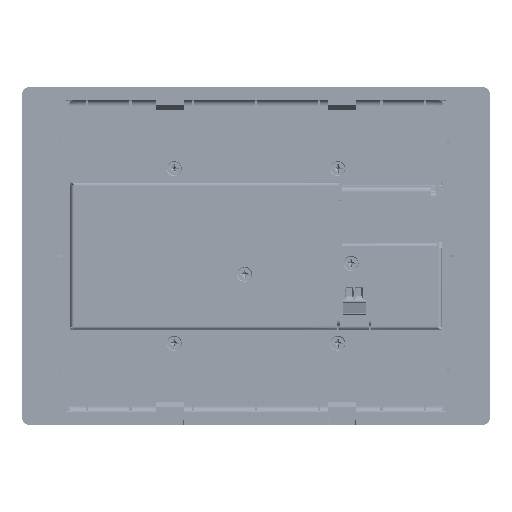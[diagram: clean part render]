
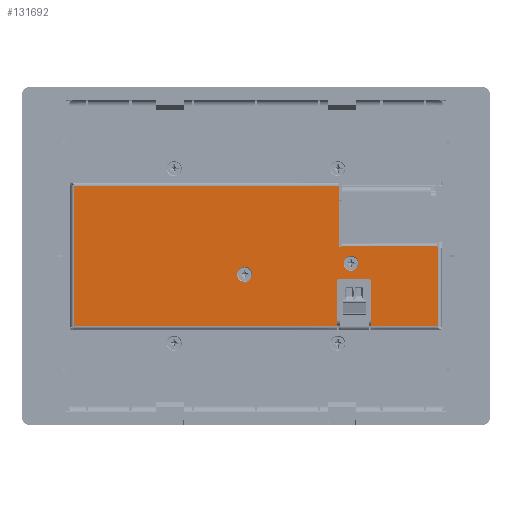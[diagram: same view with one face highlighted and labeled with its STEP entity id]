
A CAD part, front view. The second image highlights one B-rep face of the part: STEP entity #131692.
In plain terms, the highlighted planar face has unit normal (0, -1, 0).
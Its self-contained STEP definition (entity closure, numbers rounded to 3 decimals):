
#126538=CARTESIAN_POINT('',(30.725,-34.3,-9.4));
#126539=DIRECTION('',(0.,1.,0.));
#126540=DIRECTION('',(-1.,0.,0.));
#126541=AXIS2_PLACEMENT_3D('',#126538,#126539,#126540);
#126648=DIRECTION('',(-1.,0.,0.));
#126649=VECTOR('',#126648,96.525);
#126650=CARTESIAN_POINT('',(29.725,-34.3,-25.8));
#126651=LINE('',#126650,#126649);
#127258=DIRECTION('',(-1.,0.,0.));
#127259=VECTOR('',#127258,24.525);
#127260=CARTESIAN_POINT('',(66.8,-34.3,-25.8));
#127261=LINE('',#127260,#127259);
#127291=DIRECTION('',(0.,0.,1.));
#127292=VECTOR('',#127291,16.4);
#127293=CARTESIAN_POINT('',(42.275,-34.3,-25.8));
#127294=LINE('',#127293,#127292);
#127298=DIRECTION('',(1.,0.,0.));
#127299=VECTOR('',#127298,10.55);
#127300=CARTESIAN_POINT('',(30.725,-34.3,-8.4));
#127301=LINE('',#127300,#127299);
#127305=DIRECTION('',(0.,0.,1.));
#127306=VECTOR('',#127305,16.4);
#127307=CARTESIAN_POINT('',(29.725,-34.3,-25.8));
#127308=LINE('',#127307,#127306);
#127312=DIRECTION('',(0.,0.,-1.));
#127313=VECTOR('',#127312,21.075);
#127314=CARTESIAN_POINT('',(30.5,-34.3,25.8));
#127315=LINE('',#127314,#127313);
#127319=DIRECTION('',(0.,0.,1.));
#127320=VECTOR('',#127319,1.);
#127321=CARTESIAN_POINT('',(30.5,-34.3,3.725));
#127322=LINE('',#127321,#127320);
#127326=CARTESIAN_POINT('',(31.,-34.3,3.725));
#127327=DIRECTION('',(0.,-1.,0.));
#127328=DIRECTION('',(-1.,0.,0.));
#127329=AXIS2_PLACEMENT_3D('',#127326,#127327,#127328);
#127334=DIRECTION('',(0.,0.,1.));
#127335=VECTOR('',#127334,0.2);
#127336=CARTESIAN_POINT('',(31.5,-34.3,3.525));
#127337=LINE('',#127336,#127335);
#127341=CARTESIAN_POINT('',(67.207,-34.3,3.932));
#127342=DIRECTION('',(0.,-1.,0.));
#127343=DIRECTION('',(-0.913,0.,-0.407));
#127344=AXIS2_PLACEMENT_3D('',#127341,#127342,#127343);
#127349=CARTESIAN_POINT('',(34.818,-34.3,-2.709));
#127350=DIRECTION('',(0.,1.,0.));
#127351=DIRECTION('',(-1.,0.,0.));
#127352=AXIS2_PLACEMENT_3D('',#127349,#127350,#127351);
#127357=CARTESIAN_POINT('',(34.818,-34.3,-2.709));
#127358=DIRECTION('',(0.,1.,0.));
#127359=DIRECTION('',(1.,0.,0.));
#127360=AXIS2_PLACEMENT_3D('',#127357,#127358,#127359);
#127365=CARTESIAN_POINT('',(-4.182,-34.3,-6.709));
#127366=DIRECTION('',(0.,1.,0.));
#127367=DIRECTION('',(-1.,0.,0.));
#127368=AXIS2_PLACEMENT_3D('',#127365,#127366,#127367);
#127373=CARTESIAN_POINT('',(-4.182,-34.3,-6.709));
#127374=DIRECTION('',(0.,1.,0.));
#127375=DIRECTION('',(1.,0.,0.));
#127376=AXIS2_PLACEMENT_3D('',#127373,#127374,#127375);
#127396=CARTESIAN_POINT('',(41.275,-34.3,-9.4));
#127397=DIRECTION('',(0.,1.,0.));
#127398=DIRECTION('',(0.,0.,1.));
#127399=AXIS2_PLACEMENT_3D('',#127396,#127397,#127398);
#127426=DIRECTION('',(0.,0.,1.));
#127427=VECTOR('',#127426,51.6);
#127428=CARTESIAN_POINT('',(-66.8,-34.3,-25.8));
#127429=LINE('',#127428,#127427);
#128158=DIRECTION('',(0.,0.,-1.));
#128159=VECTOR('',#128158,28.819);
#128160=CARTESIAN_POINT('',(66.8,-34.3,3.019));
#128161=LINE('',#128160,#128159);
#128680=DIRECTION('',(1.,0.,0.));
#128681=VECTOR('',#128680,34.794);
#128682=CARTESIAN_POINT('',(31.5,-34.3,3.525));
#128683=LINE('',#128682,#128681);
#128872=DIRECTION('',(1.,0.,0.));
#128873=VECTOR('',#128872,97.3);
#128874=CARTESIAN_POINT('',(-66.8,-34.3,25.8));
#128875=LINE('',#128874,#128873);
#130290=CARTESIAN_POINT('',(-66.8,-34.3,-25.8));
#130291=VERTEX_POINT('',#130290);
#130294=CARTESIAN_POINT('',(-66.8,-34.3,25.8));
#130295=VERTEX_POINT('',#130294);
#130304=CARTESIAN_POINT('',(66.8,-34.3,-25.8));
#130305=VERTEX_POINT('',#130304);
#130365=CARTESIAN_POINT('',(42.275,-34.3,-25.8));
#130367=VERTEX_POINT('',#130365);
#130369=CARTESIAN_POINT('',(29.725,-34.3,-25.8));
#130371=VERTEX_POINT('',#130369);
#130377=CARTESIAN_POINT('',(30.5,-34.3,25.8));
#130379=VERTEX_POINT('',#130377);
#130390=CARTESIAN_POINT('',(30.5,-34.3,3.725));
#130391=CARTESIAN_POINT('',(31.5,-34.3,3.725));
#130392=VERTEX_POINT('',#130390);
#130393=VERTEX_POINT('',#130391);
#130394=CARTESIAN_POINT('',(30.5,-34.3,4.725));
#130395=VERTEX_POINT('',#130394);
#130428=CARTESIAN_POINT('',(66.294,-34.3,3.525));
#130429=CARTESIAN_POINT('',(66.8,-34.3,3.019));
#130430=VERTEX_POINT('',#130428);
#130431=VERTEX_POINT('',#130429);
#130434=CARTESIAN_POINT('',(31.5,-34.3,3.525));
#130435=VERTEX_POINT('',#130434);
#130595=CARTESIAN_POINT('',(30.725,-34.3,-8.4));
#130597=VERTEX_POINT('',#130595);
#130599=CARTESIAN_POINT('',(29.725,-34.3,-9.4));
#130601=VERTEX_POINT('',#130599);
#130603=CARTESIAN_POINT('',(42.275,-34.3,-9.4));
#130605=VERTEX_POINT('',#130603);
#130607=CARTESIAN_POINT('',(41.275,-34.3,-8.4));
#130609=VERTEX_POINT('',#130607);
#130826=CARTESIAN_POINT('',(32.068,-34.3,-2.709));
#130827=CARTESIAN_POINT('',(37.568,-34.3,-2.709));
#130828=VERTEX_POINT('',#130826);
#130829=VERTEX_POINT('',#130827);
#130834=CARTESIAN_POINT('',(-6.932,-34.3,-6.709));
#130835=CARTESIAN_POINT('',(-1.432,-34.3,-6.709));
#130836=VERTEX_POINT('',#130834);
#130837=VERTEX_POINT('',#130835);
#131646=CARTESIAN_POINT('',(0.,-34.3,0.));
#131647=DIRECTION('',(0.,-1.,0.));
#131648=DIRECTION('',(1.,0.,0.));
#131649=AXIS2_PLACEMENT_3D('',#131646,#131647,#131648);
#131650=PLANE('',#131649);
#131652=ORIENTED_EDGE('',*,*,#131651,.T.);
#131654=ORIENTED_EDGE('',*,*,#131653,.F.);
#131655=ORIENTED_EDGE('',*,*,#130953,.F.);
#131656=ORIENTED_EDGE('',*,*,#130970,.F.);
#131657=ORIENTED_EDGE('',*,*,#130984,.F.);
#131658=ORIENTED_EDGE('',*,*,#131099,.T.);
#131660=ORIENTED_EDGE('',*,*,#131659,.T.);
#131662=ORIENTED_EDGE('',*,*,#131661,.T.);
#131664=ORIENTED_EDGE('',*,*,#131663,.T.);
#131666=ORIENTED_EDGE('',*,*,#131665,.F.);
#131668=ORIENTED_EDGE('',*,*,#131667,.T.);
#131670=ORIENTED_EDGE('',*,*,#131669,.F.);
#131672=ORIENTED_EDGE('',*,*,#131671,.T.);
#131674=ORIENTED_EDGE('',*,*,#131673,.T.);
#131676=ORIENTED_EDGE('',*,*,#131675,.T.);
#131677=ORIENTED_EDGE('',*,*,#131638,.T.);
#131678=EDGE_LOOP('',(#131652,#131654,#131655,#131656,#131657,#131658,#131660,
#131662,#131664,#131666,#131668,#131670,#131672,#131674,#131676,#131677));
#131679=FACE_OUTER_BOUND('',#131678,.F.);
#131681=ORIENTED_EDGE('',*,*,#131680,.F.);
#131683=ORIENTED_EDGE('',*,*,#131682,.F.);
#131684=EDGE_LOOP('',(#131681,#131683));
#131685=FACE_BOUND('',#131684,.F.);
#131687=ORIENTED_EDGE('',*,*,#131686,.F.);
#131689=ORIENTED_EDGE('',*,*,#131688,.F.);
#131690=EDGE_LOOP('',(#131687,#131689));
#131691=FACE_BOUND('',#131690,.F.);
#126542=CIRCLE('',#126541,1.);
#127330=CIRCLE('',#127329,0.5);
#127345=CIRCLE('',#127344,1.);
#127353=CIRCLE('',#127352,2.75);
#127361=CIRCLE('',#127360,2.75);
#127369=CIRCLE('',#127368,2.75);
#127377=CIRCLE('',#127376,2.75);
#127400=CIRCLE('',#127399,1.);
#130953=EDGE_CURVE('',#130597,#130609,#127301,.T.);
#130970=EDGE_CURVE('',#130601,#130597,#126542,.T.);
#130984=EDGE_CURVE('',#130371,#130601,#127308,.T.);
#131099=EDGE_CURVE('',#130371,#130291,#126651,.T.);
#131638=EDGE_CURVE('',#130305,#130367,#127261,.T.);
#131651=EDGE_CURVE('',#130367,#130605,#127294,.T.);
#131653=EDGE_CURVE('',#130609,#130605,#127400,.T.);
#131659=EDGE_CURVE('',#130291,#130295,#127429,.T.);
#131661=EDGE_CURVE('',#130295,#130379,#128875,.T.);
#131663=EDGE_CURVE('',#130379,#130395,#127315,.T.);
#131665=EDGE_CURVE('',#130392,#130395,#127322,.T.);
#131667=EDGE_CURVE('',#130392,#130393,#127330,.T.);
#131669=EDGE_CURVE('',#130435,#130393,#127337,.T.);
#131671=EDGE_CURVE('',#130435,#130430,#128683,.T.);
#131673=EDGE_CURVE('',#130430,#130431,#127345,.T.);
#131675=EDGE_CURVE('',#130431,#130305,#128161,.T.);
#131680=EDGE_CURVE('',#130828,#130829,#127353,.T.);
#131682=EDGE_CURVE('',#130829,#130828,#127361,.T.);
#131686=EDGE_CURVE('',#130836,#130837,#127369,.T.);
#131688=EDGE_CURVE('',#130837,#130836,#127377,.T.);
#131692=ADVANCED_FACE('',(#131679,#131685,#131691),#131650,.T.);
